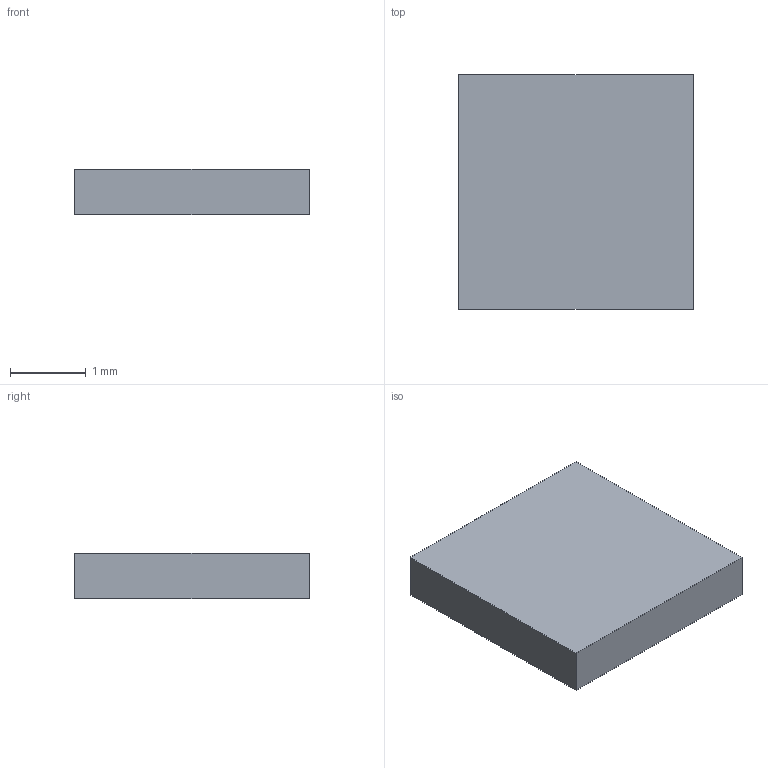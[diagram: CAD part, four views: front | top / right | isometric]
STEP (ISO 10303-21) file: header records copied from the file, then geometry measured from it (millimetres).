
FILE_DESCRIPTION(('Open CASCADE Model'),'2;1');
FILE_NAME('Open CASCADE Shape Model','2026-09-24T05:33:26',('Author'),( 'Open CASCADE'),'Open CASCADE STEP processor 7.8','Open CASCADE 7.8' ,'Unknown');
FILE_SCHEMA(('AUTOMOTIVE_DESIGN { 1 0 10303 214 1 1 1 1 }'));
Length unit declared in the file: millimetre
Products named in the file (1): Open CASCADE STEP translator 7.8 143
Bounding box: 3.1 x 3.1 x 0.6 mm (x, y, z)
Volume: 5.8 mm3; surface area: 26.7 mm2
Topology: 1 solids, 1 shells, 6 faces, 12 edges, 8 vertices
Faces by surface type: plane 6
Entity records: 322 total; most frequent: CARTESIAN_POINT 51, DIRECTION 50, LINE 36, VECTOR 36, ORIENTED_EDGE 24, PCURVE 24, DEFINITIONAL_REPRESENTATION 24, EDGE_CURVE 12
